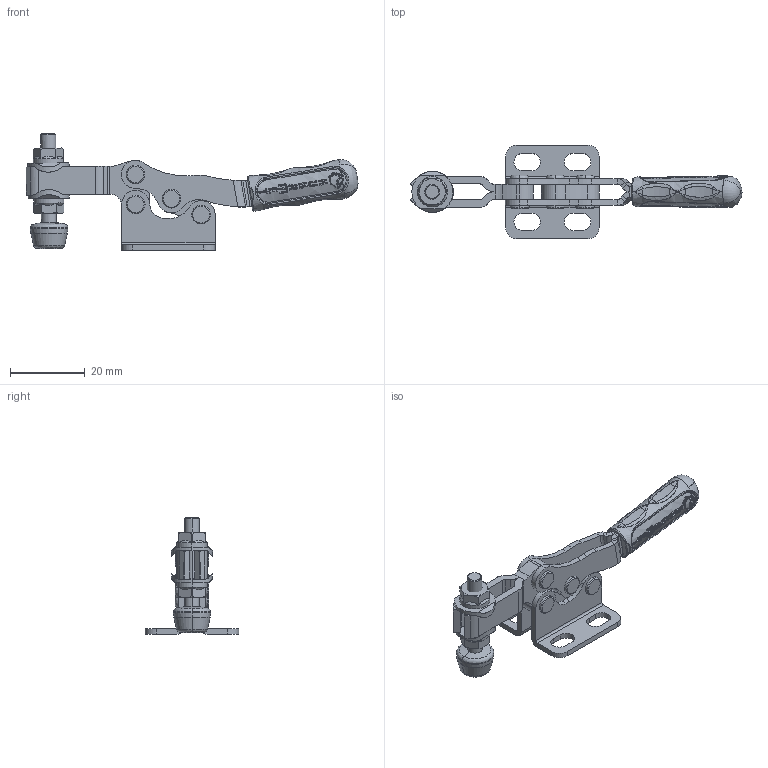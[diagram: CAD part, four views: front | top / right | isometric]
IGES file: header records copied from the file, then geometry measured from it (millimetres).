
Start section: 3D InterOp IGES (v. 2020 1.0.1), Spatial Corp. Copyright (c) 1999-2017.
Global section: file name: 111-0.igs; native system: Spatial Corp.; preprocessor: 3D InterOp ACIS/IGES; author: TraceParts; organization: TraceParts S.A.; date: 20230908.145340; units: millimetre
Bounding box: 88.79 x 25 x 31.1 mm (x, y, z)
Surface area: 8003.3 mm2 (no closed solid volume)
Topology: 0 solids, 0 shells, 1379 faces, 14347 edges, 14172 vertices
Faces by surface type: bspline 582, revolution 491, extrusion 306
